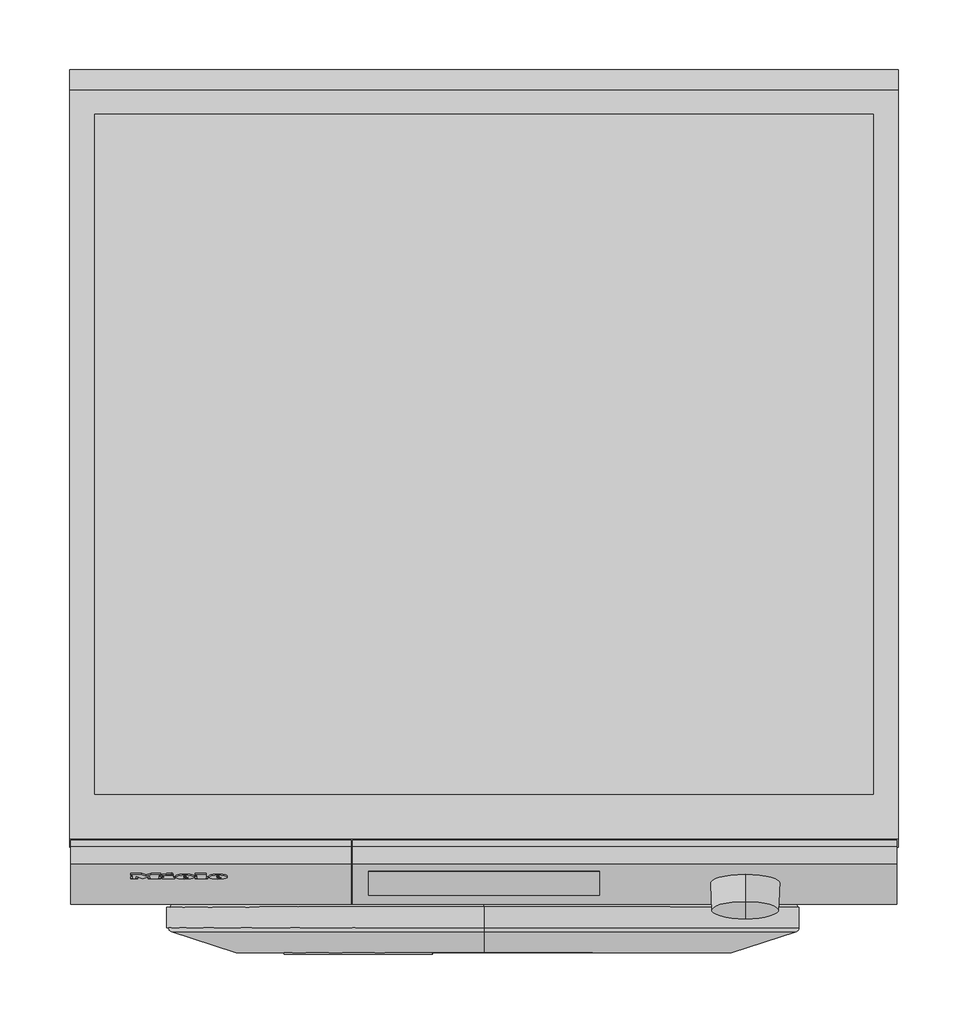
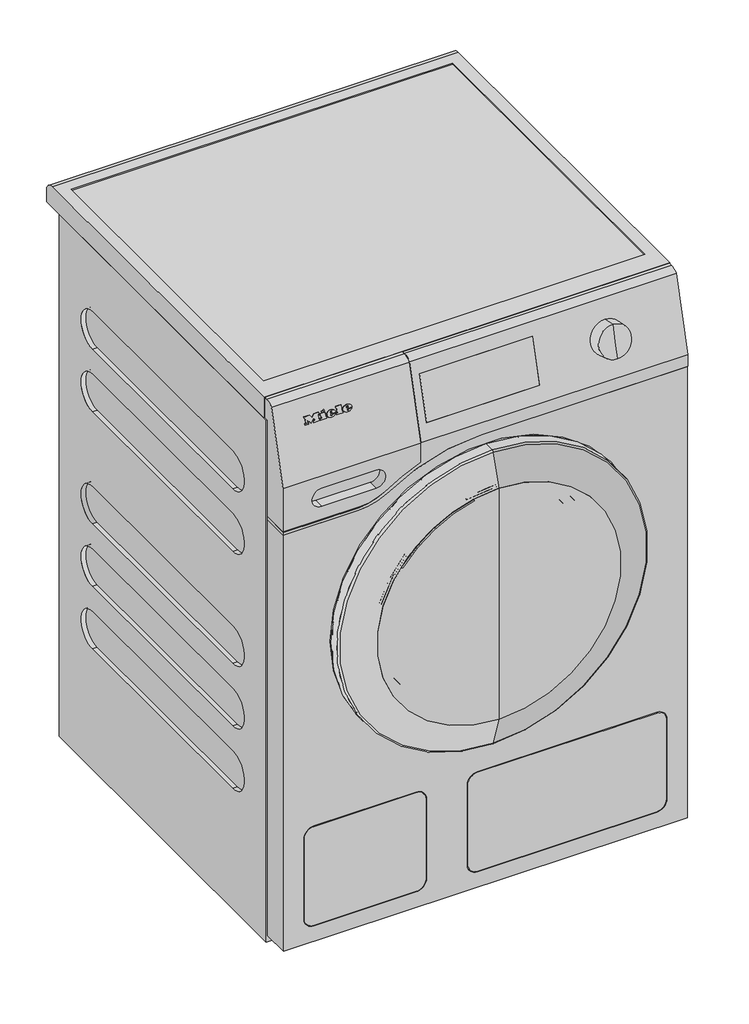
# Not in any storey: 1 proxy.
"""IFC4 building model written with IfcOpenShell, lengths in millimetres."""

from ifc_helpers import new_model, si_unit, origin, place, context, project, spatial, transform, mapped, element, save
from components import specialty_equipment_ca2fa9b3, specialty_equipment_badbdaf0

model = new_model("IFC4")

# Units and contexts
model_context = context("Model", 3, world=origin())
ifc_project = project(units=[si_unit("LENGTHUNIT", "METRE", prefix="MILLI")], contexts=[model_context])

# Site, building
site = spatial("IfcSite", under=ifc_project)
building = spatial("IfcBuilding", under=site)

# Proxy
placement = place(None, origin())
specialty_equipment_shape = specialty_equipment_ca2fa9b3(model_context)
specialty_equipment_2_shape = specialty_equipment_badbdaf0(model_context)
element("IfcBuildingElementProxy", 1, Name="12737130_B_WEC395WPS_LW : 11EC3953_B_12737130_WEC395WPS_LW", ObjectType="12737130_B_WEC395WPS_LW : 11EC3953_B_12737130_WEC395WPS_LW", at=placement, inside=building, context=model_context, shape_type="MappedRepresentation", body=[
    mapped(specialty_equipment_shape, transform((0.0, 0.0, 0.0), x_axis=(1.0, 0.0, 0.0), y_axis=(0.0, 1.0, 0.0), z_axis=(0.0, 0.0, 1.0))),
    mapped(specialty_equipment_2_shape, transform((0.0, 0.0, 0.0), x_axis=(1.0, 0.0, 0.0), y_axis=(0.0, 1.0, 0.0), z_axis=(0.0, 0.0, 1.0))),
])

save(model, "model.ifc")
